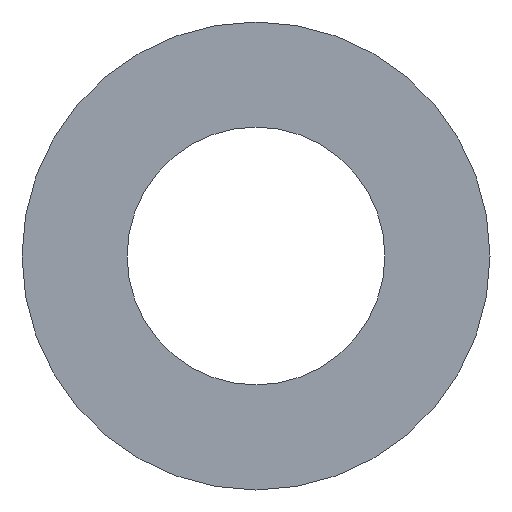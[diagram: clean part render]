
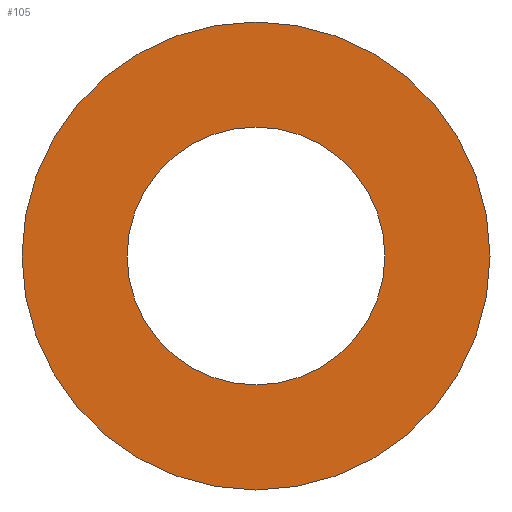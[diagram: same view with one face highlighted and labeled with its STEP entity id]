
A CAD part, left-side view. The second image highlights one B-rep face of the part: STEP entity #105.
In plain terms, the highlighted planar face has unit normal (-1, 0, 0).
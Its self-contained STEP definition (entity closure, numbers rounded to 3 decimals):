
#21 = EDGE_CURVE('',#22,#22,#24,.T.);
#22 = VERTEX_POINT('',#23);
#23 = CARTESIAN_POINT('',(-6.,0.,-2.45));
#24 = SURFACE_CURVE('',#25,(#30,#42),.PCURVE_S1.);
#25 = CIRCLE('',#26,2.45);
#26 = AXIS2_PLACEMENT_3D('',#27,#28,#29);
#27 = CARTESIAN_POINT('',(-6.,0.,0.));
#28 = DIRECTION('',(-1.,0.,0.));
#29 = DIRECTION('',(0.,0.,-1.));
#30 = PCURVE('',#31,#36);
#31 = CYLINDRICAL_SURFACE('',#32,2.45);
#32 = AXIS2_PLACEMENT_3D('',#33,#34,#35);
#33 = CARTESIAN_POINT('',(-5.45,0.,0.));
#34 = DIRECTION('',(-1.,0.,0.));
#35 = DIRECTION('',(0.,0.,-1.));
#36 = DEFINITIONAL_REPRESENTATION('',(#37),#41);
#37 = LINE('',#38,#39);
#38 = CARTESIAN_POINT('',(0.,0.55));
#39 = VECTOR('',#40,1.);
#40 = DIRECTION('',(1.,0.));
#41 = ( GEOMETRIC_REPRESENTATION_CONTEXT(2) 
PARAMETRIC_REPRESENTATION_CONTEXT() REPRESENTATION_CONTEXT('2D SPACE',''
  ) );
#42 = PCURVE('',#43,#48);
#43 = PLANE('',#44);
#44 = AXIS2_PLACEMENT_3D('',#45,#46,#47);
#45 = CARTESIAN_POINT('',(-6.,0.,0.));
#46 = DIRECTION('',(-1.,0.,0.));
#47 = DIRECTION('',(0.,0.,-1.));
#48 = DEFINITIONAL_REPRESENTATION('',(#49),#53);
#49 = CIRCLE('',#50,2.45);
#50 = AXIS2_PLACEMENT_2D('',#51,#52);
#51 = CARTESIAN_POINT('',(0.,0.));
#52 = DIRECTION('',(1.,0.));
#53 = ( GEOMETRIC_REPRESENTATION_CONTEXT(2) 
PARAMETRIC_REPRESENTATION_CONTEXT() REPRESENTATION_CONTEXT('2D SPACE',''
  ) );
#105 = ADVANCED_FACE('',(#106,#109),#43,.T.);
#106 = FACE_BOUND('',#107,.T.);
#107 = EDGE_LOOP('',(#108));
#108 = ORIENTED_EDGE('',*,*,#21,.T.);
#109 = FACE_BOUND('',#110,.T.);
#110 = EDGE_LOOP('',(#111));
#111 = ORIENTED_EDGE('',*,*,#112,.F.);
#112 = EDGE_CURVE('',#113,#113,#115,.T.);
#113 = VERTEX_POINT('',#114);
#114 = CARTESIAN_POINT('',(-6.,0.,-1.35));
#115 = SURFACE_CURVE('',#116,(#121,#128),.PCURVE_S1.);
#116 = CIRCLE('',#117,1.35);
#117 = AXIS2_PLACEMENT_3D('',#118,#119,#120);
#118 = CARTESIAN_POINT('',(-6.,0.,0.));
#119 = DIRECTION('',(-1.,0.,0.));
#120 = DIRECTION('',(0.,0.,-1.));
#121 = PCURVE('',#43,#122);
#122 = DEFINITIONAL_REPRESENTATION('',(#123),#127);
#123 = CIRCLE('',#124,1.35);
#124 = AXIS2_PLACEMENT_2D('',#125,#126);
#125 = CARTESIAN_POINT('',(0.,0.));
#126 = DIRECTION('',(1.,0.));
#127 = ( GEOMETRIC_REPRESENTATION_CONTEXT(2) 
PARAMETRIC_REPRESENTATION_CONTEXT() REPRESENTATION_CONTEXT('2D SPACE',''
  ) );
#128 = PCURVE('',#129,#134);
#129 = CYLINDRICAL_SURFACE('',#130,1.35);
#130 = AXIS2_PLACEMENT_3D('',#131,#132,#133);
#131 = CARTESIAN_POINT('',(-5.4,0.,0.));
#132 = DIRECTION('',(-1.,0.,0.));
#133 = DIRECTION('',(0.,0.,-1.));
#134 = DEFINITIONAL_REPRESENTATION('',(#135),#139);
#135 = LINE('',#136,#137);
#136 = CARTESIAN_POINT('',(0.,0.6));
#137 = VECTOR('',#138,1.);
#138 = DIRECTION('',(1.,0.));
#139 = ( GEOMETRIC_REPRESENTATION_CONTEXT(2) 
PARAMETRIC_REPRESENTATION_CONTEXT() REPRESENTATION_CONTEXT('2D SPACE',''
  ) );
